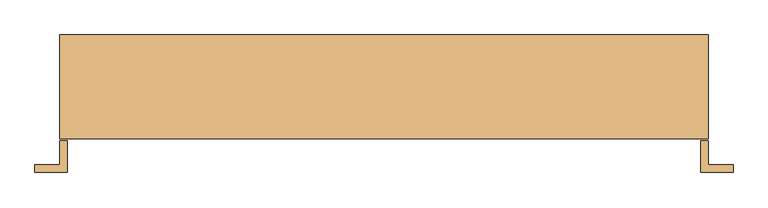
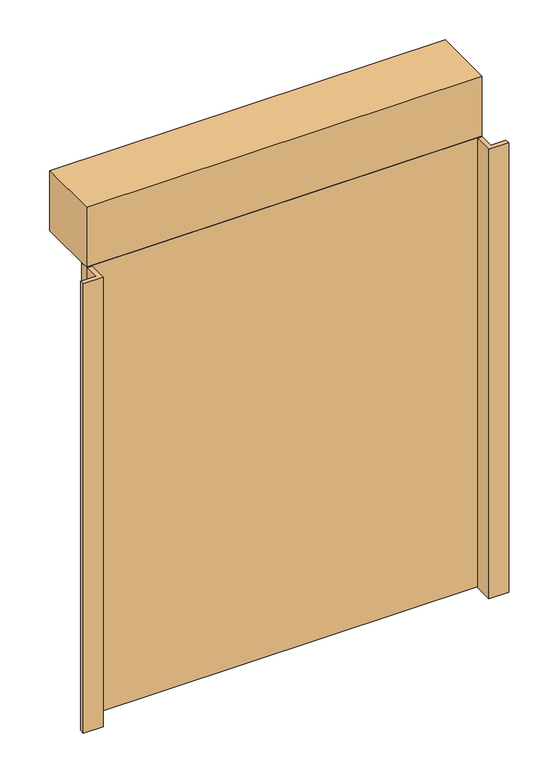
"""IFC4 building model written with IfcOpenShell, lengths in millimetres: door geometry, Rollershutter : 25000(w) x 3000(h)."""

from ifc_helpers import new_model, si_unit, frame, origin, origin_with_axes, place, context, project, spatial, polyline, outline, extrude, source, transform, mapped, element, save


def door_3f0b7e55(model_context):
    return source(origin(), model_context, "Body", "SweptSolid", [
        extrude(outline(polyline([(850.0, 50.0), (-1650.0, 50.0), (-1650.0, 101.0), (850.0, 101.0), (850.0, 50.0)])), origin_with_axes(), (0.0, 0.0, 1.0), 3000.0),
        extrude(outline(polyline([(-1745.0, -80.0), (-1745.0, -50.0), (-1650.0, -50.0), (-1650.0, 41.8), (-1620.0, 41.8), (-1620.0, -80.0), (-1745.0, -80.0)])), origin_with_axes(), (0.0, 0.0, 1.0), 3000.0),
        extrude(outline(polyline([(945.0, -80.0), (820.0, -80.0), (820.0, 41.8), (850.0, 41.8), (850.0, -50.0), (945.0, -50.0), (945.0, -80.0)])), origin_with_axes(), (0.0, 0.0, 1.0), 3000.0),
        extrude(outline(polyline([(-1650.0, 450.0), (850.0, 450.0), (850.0, 50.0), (-1650.0, 50.0), (-1650.0, 450.0)])), frame((0.0, 0.0, 3000.0), z_axis=(0.0, 0.0, 1.0), x_axis=(1.0, 0.0, 0.0)), (0.0, 0.0, 1.0), 400.0),
    ])


if __name__ == "__main__":
    model = new_model("IFC4")
    model_context = context("Model", 3, world=origin())
    ifc_project = project(units=[si_unit("LENGTHUNIT", "METRE", prefix="MILLI")], contexts=[model_context])
    site = spatial("IfcSite", under=ifc_project)
    building = spatial("IfcBuilding", under=site)
    placement = place(None, origin())
    door_shape = door_3f0b7e55(model_context)
    element("IfcDoor", 1, ObjectType="Rollershutter : 25000(w) x 3000(h)", at=placement, inside=building, context=model_context, shape_type="MappedRepresentation", body=[
        mapped(door_shape, transform((0.0, 0.0, 0.0), x_axis=(1.0, 0.0, 0.0), y_axis=(0.0, 1.0, 0.0), z_axis=(0.0, 0.0, 1.0))),
    ])
    save(model, "model.ifc")
